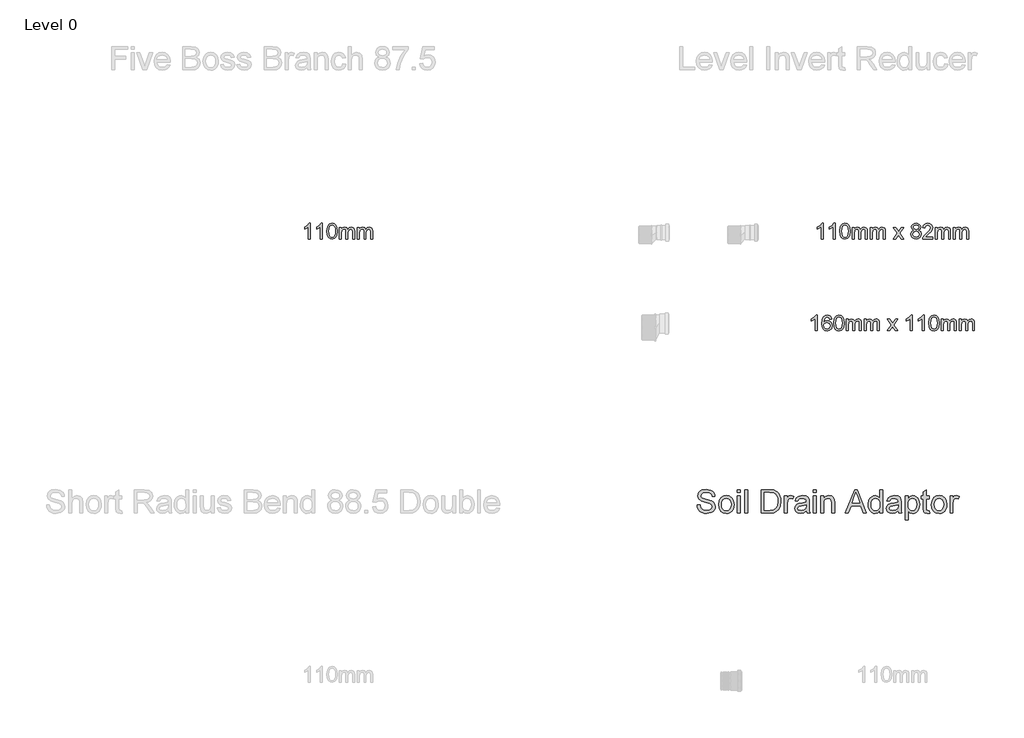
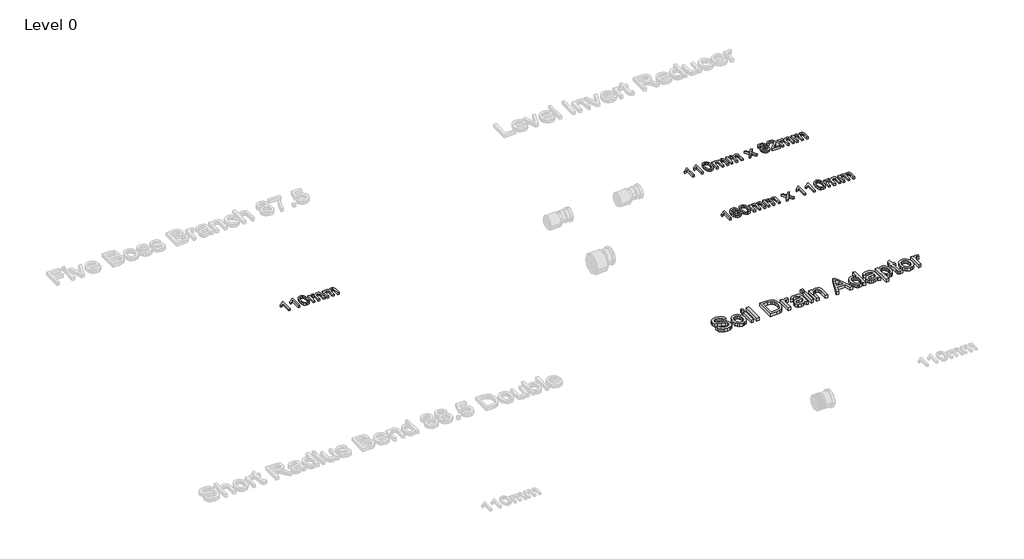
# One storey, part 21 of 23: 4 proxies.
"""IFC4 building model written with IfcOpenShell, lengths in millimetres."""

from ifc_helpers import new_model, si_unit, origin, origin_with_axes, place, context, project, spatial, polyline, outline, extrude, element, save

model = new_model("IFC4")

# Units and contexts
model_context = context("Model", 3, world=origin())
ifc_project = project(units=[si_unit("LENGTHUNIT", "METRE", prefix="MILLI")], contexts=[model_context])

# Site, building, storey
site = spatial("IfcSite", under=ifc_project)
building = spatial("IfcBuilding", under=site)
storey = spatial("IfcBuildingStorey", under=building, Name="Level 0", Elevation=0.0)

# Proxies
placement = place(None, origin())
element("IfcBuildingElementProxy", 1, Name="100mm Arial", ObjectType="100mm Arial", at=placement, inside=storey, context=model_context, shape_type="SweptSolid", body=[
    extrude(outline(polyline([(208.2706812, 2637.7167304), (195.9629889, 2637.7167304), (195.9629889, 2714.4474996), (184.3043351, 2706.1422111), (171.3476043, 2699.9282688), (171.3476043, 2711.5628842), (189.3884697, 2723.0773073), (200.3379889, 2736.1782688), (208.2706812, 2736.1782688), (208.2706812, 2637.7167304)])), origin_with_axes(), (0.0, 0.0, 1.0), 15.0),
    extrude(outline(polyline([(283.6552966, 2637.7167304), (271.3476043, 2637.7167304), (271.3476043, 2714.4474996), (259.6889505, 2706.1422111), (246.7322197, 2699.9282688), (246.7322197, 2711.5628842), (264.7730851, 2723.0773073), (275.7226043, 2736.1782688), (283.6552966, 2736.1782688), (283.6552966, 2637.7167304)])), origin_with_axes(), (0.0, 0.0, 1.0), 15.0),
    extrude(outline(polyline([(312.8860659, 2686.1542304), (316.5038543, 2714.4835573), (327.2490466, 2730.8176919), (345.1937582, 2736.1782688), (359.5687582, 2733.0051919), (369.4966428, 2723.8585573), (375.2658736, 2709.2912496), (377.5014505, 2686.1542304), (373.9197197, 2657.9450958), (363.2105851, 2641.5749035), (345.1937582, 2636.1782688), (332.4052966, 2638.5220188), (322.6937582, 2645.5532688), (315.3379889, 2662.2059131), (312.8860659, 2686.1542304)]), holes=[polyline([(325.1937582, 2686.1782688), (326.6360659, 2666.8182929), (330.9629889, 2655.613365), (337.4052966, 2650.2678121), (345.1937582, 2648.4859611), (352.9822197, 2650.2738217), (359.4245274, 2655.6374035), (363.7514505, 2666.848341), (365.1937582, 2686.1782688), (363.7995274, 2705.1025477), (359.6168351, 2716.394615), (353.1865466, 2722.0015861), (345.0495274, 2723.8705765), (337.3452005, 2722.2239419), (331.1552966, 2717.2840381), (326.6841428, 2705.2888458), (325.1937582, 2686.1782688)])]), origin_with_axes(), (0.0, 0.0, 1.0), 15.0),
    extrude(outline(polyline([(391.3476043, 2637.7167304), (391.3476043, 2710.0244227), (403.6552966, 2710.0244227), (403.6552966, 2698.1253842), (412.1168351, 2707.8729804), (424.1601043, 2711.5628842), (436.4918351, 2707.800865), (443.2706812, 2697.2599996), (452.8740466, 2707.9871631), (465.0014505, 2711.5628842), (474.2532534, 2710.0755044), (481.0952005, 2705.613365), (485.3229649, 2698.0562736), (486.7322197, 2687.2840381), (486.7322197, 2637.7167304), (474.4245274, 2637.7167304), (474.4245274, 2681.9955765), (473.2827005, 2692.2720188), (469.1480851, 2697.332115), (462.1168351, 2699.2551919), (450.0134697, 2694.3273073), (445.1937582, 2678.5340381), (445.1937582, 2637.7167304), (432.8860659, 2637.7167304), (432.8860659, 2683.3657688), (430.0375082, 2695.2888458), (420.6985659, 2699.2551919), (411.5879889, 2696.6109611), (405.5302966, 2688.8705765), (403.6552966, 2674.1830765), (403.6552966, 2637.7167304), (391.3476043, 2637.7167304)])), origin_with_axes(), (0.0, 0.0, 1.0), 15.0),
    extrude(outline(polyline([(505.1937582, 2637.7167304), (505.1937582, 2710.0244227), (517.5014505, 2710.0244227), (517.5014505, 2698.1253842), (525.9629889, 2707.8729804), (538.0062582, 2711.5628842), (550.3379889, 2707.800865), (557.1168351, 2697.2599996), (566.7202005, 2707.9871631), (578.8476043, 2711.5628842), (588.0994072, 2710.0755044), (594.9413543, 2705.613365), (599.1691187, 2698.0562736), (600.5783736, 2687.2840381), (600.5783736, 2637.7167304), (588.2706812, 2637.7167304), (588.2706812, 2681.9955765), (587.1288543, 2692.2720188), (582.9942389, 2697.332115), (575.9629889, 2699.2551919), (563.8596236, 2694.3273073), (559.039912, 2678.5340381), (559.039912, 2637.7167304), (546.7322197, 2637.7167304), (546.7322197, 2683.3657688), (543.883662, 2695.2888458), (534.5447197, 2699.2551919), (525.4341428, 2696.6109611), (519.3764505, 2688.8705765), (517.5014505, 2674.1830765), (517.5014505, 2637.7167304), (505.1937582, 2637.7167304)])), origin_with_axes(), (0.0, 0.0, 1.0), 15.0),
])
element("IfcBuildingElementProxy", 2, Name="100mm Arial", ObjectType="100mm Arial", at=placement, inside=storey, context=model_context, shape_type="SweptSolid", body=[
    extrude(outline(polyline([(3445.9629889, 2637.7167304), (3433.6552966, 2637.7167304), (3433.6552966, 2714.4474996), (3421.9966428, 2706.1422111), (3409.039912, 2699.9282688), (3409.039912, 2711.5628842), (3427.0807774, 2723.0773073), (3438.0302966, 2736.1782688), (3445.9629889, 2736.1782688), (3445.9629889, 2637.7167304)])), origin_with_axes(), (0.0, 0.0, 1.0), 15.0),
    extrude(outline(polyline([(3521.3476043, 2637.7167304), (3509.039912, 2637.7167304), (3509.039912, 2714.4474996), (3497.3812582, 2706.1422111), (3484.4245274, 2699.9282688), (3484.4245274, 2711.5628842), (3502.4653928, 2723.0773073), (3513.414912, 2736.1782688), (3521.3476043, 2736.1782688), (3521.3476043, 2637.7167304)])), origin_with_axes(), (0.0, 0.0, 1.0), 15.0),
    extrude(outline(polyline([(3550.5783736, 2686.1542304), (3554.196162, 2714.4835573), (3564.9413543, 2730.8176919), (3582.8860659, 2736.1782688), (3597.2610659, 2733.0051919), (3607.1889505, 2723.8585573), (3612.9581812, 2709.2912496), (3615.1937582, 2686.1542304), (3611.6120274, 2657.9450958), (3600.9028928, 2641.5749035), (3582.8860659, 2636.1782688), (3570.0976043, 2638.5220188), (3560.3860659, 2645.5532688), (3553.0302966, 2662.2059131), (3550.5783736, 2686.1542304)]), holes=[polyline([(3562.8860659, 2686.1782688), (3564.3283736, 2666.8182929), (3568.6552966, 2655.613365), (3575.0976043, 2650.2678121), (3582.8860659, 2648.4859611), (3590.6745274, 2650.2738217), (3597.1168351, 2655.6374035), (3601.4437582, 2666.848341), (3602.8860659, 2686.1782688), (3601.4918351, 2705.1025477), (3597.3091428, 2716.394615), (3590.8788543, 2722.0015861), (3582.7418351, 2723.8705765), (3575.0375082, 2722.2239419), (3568.8476043, 2717.2840381), (3564.3764505, 2705.2888458), (3562.8860659, 2686.1782688)])]), origin_with_axes(), (0.0, 0.0, 1.0), 15.0),
    extrude(outline(polyline([(3629.039912, 2637.7167304), (3629.039912, 2710.0244227), (3641.3476043, 2710.0244227), (3641.3476043, 2698.1253842), (3649.8091428, 2707.8729804), (3661.852412, 2711.5628842), (3674.1841428, 2707.800865), (3680.9629889, 2697.2599996), (3690.5663543, 2707.9871631), (3702.6937582, 2711.5628842), (3711.9455611, 2710.0755044), (3718.7875082, 2705.613365), (3723.0152726, 2698.0562736), (3724.4245274, 2687.2840381), (3724.4245274, 2637.7167304), (3712.1168351, 2637.7167304), (3712.1168351, 2681.9955765), (3710.9750082, 2692.2720188), (3706.8403928, 2697.332115), (3699.8091428, 2699.2551919), (3687.7057774, 2694.3273073), (3682.8860659, 2678.5340381), (3682.8860659, 2637.7167304), (3670.5783736, 2637.7167304), (3670.5783736, 2683.3657688), (3667.7298159, 2695.2888458), (3658.3908736, 2699.2551919), (3649.2802966, 2696.6109611), (3643.2226043, 2688.8705765), (3641.3476043, 2674.1830765), (3641.3476043, 2637.7167304), (3629.039912, 2637.7167304)])), origin_with_axes(), (0.0, 0.0, 1.0), 15.0),
    extrude(outline(polyline([(3742.8860659, 2637.7167304), (3742.8860659, 2710.0244227), (3755.1937582, 2710.0244227), (3755.1937582, 2698.1253842), (3763.6552966, 2707.8729804), (3775.6985659, 2711.5628842), (3788.0302966, 2707.800865), (3794.8091428, 2697.2599996), (3804.4125082, 2707.9871631), (3816.539912, 2711.5628842), (3825.7917149, 2710.0755044), (3832.633662, 2705.613365), (3836.8614264, 2698.0562736), (3838.2706812, 2687.2840381), (3838.2706812, 2637.7167304), (3825.9629889, 2637.7167304), (3825.9629889, 2681.9955765), (3824.821162, 2692.2720188), (3820.6865466, 2697.332115), (3813.6552966, 2699.2551919), (3801.5519312, 2694.3273073), (3796.7322197, 2678.5340381), (3796.7322197, 2637.7167304), (3784.4245274, 2637.7167304), (3784.4245274, 2683.3657688), (3781.5759697, 2695.2888458), (3772.2370274, 2699.2551919), (3763.1264505, 2696.6109611), (3757.0687582, 2688.8705765), (3755.1937582, 2674.1830765), (3755.1937582, 2637.7167304), (3742.8860659, 2637.7167304)])), origin_with_axes(), (0.0, 0.0, 1.0), 15.0),
    extrude(outline(polyline([(3887.5014505, 2637.7167304), (3913.7995274, 2674.0628842), (3889.039912, 2710.0244227), (3903.8476043, 2710.0244227), (3915.7947197, 2692.7167304), (3921.3716428, 2684.5436535), (3926.2033736, 2691.2263458), (3939.8091428, 2710.0244227), (3954.6168351, 2710.0244227), (3928.6072197, 2674.0628842), (3953.6552966, 2637.7167304), (3938.8476043, 2637.7167304), (3923.7754889, 2659.5676919), (3921.0110659, 2663.5580765), (3902.3091428, 2637.7167304), (3887.5014505, 2637.7167304)])), origin_with_axes(), (0.0, 0.0, 1.0), 15.0),
    extrude(outline(polyline([(4017.7418351, 2691.9474996), (4006.5278928, 2699.5917304), (4002.8860659, 2711.4907688), (4004.8692389, 2721.1121631), (4010.8187582, 2729.0628842), (4020.0675562, 2734.3994227), (4031.9485659, 2736.1782688), (4043.9016909, 2734.3573554), (4053.2706812, 2728.894615), (4059.3283736, 2720.8176919), (4061.3476043, 2711.1542304), (4057.7538543, 2699.5556727), (4046.852412, 2691.9474996), (4059.9413543, 2682.2960573), (4064.4245274, 2666.3705765), (4062.2009697, 2654.6037496), (4055.5302966, 2644.8801919), (4045.2298159, 2638.3537496), (4032.1168351, 2636.1782688), (4019.0038543, 2638.362764), (4008.7033736, 2644.9162496), (4002.0327005, 2654.7329563), (3999.8091428, 2666.707115), (4004.4726043, 2683.0051919), (4017.7418351, 2691.9474996)]), holes=[polyline([(4012.1168351, 2667.1398073), (4014.1721236, 2657.8729804), (4021.4437582, 2650.9378842), (4032.2129889, 2648.4859611), (4046.8764505, 2653.6422111), (4052.1168351, 2666.7551919), (4046.7081812, 2680.1205765), (4040.2778928, 2684.0869227), (4031.8043351, 2685.4090381), (4017.321162, 2680.1926919), (4012.1168351, 2667.1398073)]), polyline([(4015.1937582, 2711.1301919), (4019.5567389, 2701.4667304), (4032.2610659, 2697.7167304), (4044.7129889, 2701.4426919), (4049.039912, 2710.5773073), (4044.5687582, 2720.0364419), (4032.1168351, 2723.8705765), (4019.6288543, 2720.1205765), (4015.1937582, 2711.1301919)])]), origin_with_axes(), (0.0, 0.0, 1.0), 15.0),
    extrude(outline(polyline([(4138.2706812, 2650.0244227), (4138.2706812, 2637.7167304), (4073.6552966, 2637.7167304), (4074.977412, 2646.2023073), (4082.4533736, 2659.2672111), (4097.8620274, 2673.5340381), (4119.1120274, 2694.0388458), (4124.4245274, 2707.9811535), (4119.4125082, 2719.2672111), (4106.3235659, 2723.8705765), (4092.6817389, 2719.3753842), (4087.5014505, 2706.9474996), (4075.1937582, 2708.4859611), (4078.1775322, 2720.3910092), (4084.6288543, 2729.0869227), (4094.2111861, 2734.4054323), (4106.5879889, 2736.1782688), (4119.0549361, 2734.207115), (4128.6192389, 2728.2936535), (4134.7039745, 2719.4595188), (4136.7322197, 2708.7263458), (4134.5447197, 2697.0556727), (4127.2730851, 2684.988365), (4109.6408736, 2668.1253842), (4095.4822197, 2656.2864419), (4089.9293351, 2650.0244227), (4138.2706812, 2650.0244227)])), origin_with_axes(), (0.0, 0.0, 1.0), 15.0),
    extrude(outline(polyline([(4153.6552966, 2637.7167304), (4153.6552966, 2710.0244227), (4165.9629889, 2710.0244227), (4165.9629889, 2698.1253842), (4174.4245274, 2707.8729804), (4186.4677966, 2711.5628842), (4198.7995274, 2707.800865), (4205.5783736, 2697.2599996), (4215.1817389, 2707.9871631), (4227.3091428, 2711.5628842), (4236.5609457, 2710.0755044), (4243.4028928, 2705.613365), (4247.6306572, 2698.0562736), (4249.039912, 2687.2840381), (4249.039912, 2637.7167304), (4236.7322197, 2637.7167304), (4236.7322197, 2681.9955765), (4235.5903928, 2692.2720188), (4231.4557774, 2697.332115), (4224.4245274, 2699.2551919), (4212.321162, 2694.3273073), (4207.5014505, 2678.5340381), (4207.5014505, 2637.7167304), (4195.1937582, 2637.7167304), (4195.1937582, 2683.3657688), (4192.3452005, 2695.2888458), (4183.0062582, 2699.2551919), (4173.8956812, 2696.6109611), (4167.8379889, 2688.8705765), (4165.9629889, 2674.1830765), (4165.9629889, 2637.7167304), (4153.6552966, 2637.7167304)])), origin_with_axes(), (0.0, 0.0, 1.0), 15.0),
    extrude(outline(polyline([(4267.5014505, 2637.7167304), (4267.5014505, 2710.0244227), (4279.8091428, 2710.0244227), (4279.8091428, 2698.1253842), (4288.2706812, 2707.8729804), (4300.3139505, 2711.5628842), (4312.6456812, 2707.800865), (4319.4245274, 2697.2599996), (4329.0278928, 2707.9871631), (4341.1552966, 2711.5628842), (4350.4070995, 2710.0755044), (4357.2490466, 2705.613365), (4361.4768111, 2698.0562736), (4362.8860659, 2687.2840381), (4362.8860659, 2637.7167304), (4350.5783736, 2637.7167304), (4350.5783736, 2681.9955765), (4349.4365466, 2692.2720188), (4345.3019312, 2697.332115), (4338.2706812, 2699.2551919), (4326.1673159, 2694.3273073), (4321.3476043, 2678.5340381), (4321.3476043, 2637.7167304), (4309.039912, 2637.7167304), (4309.039912, 2683.3657688), (4306.1913543, 2695.2888458), (4296.852412, 2699.2551919), (4287.7418351, 2696.6109611), (4281.6841428, 2688.8705765), (4279.8091428, 2674.1830765), (4279.8091428, 2637.7167304), (4267.5014505, 2637.7167304)])), origin_with_axes(), (0.0, 0.0, 1.0), 15.0),
])
element("IfcBuildingElementProxy", 3, Name="100mm Arial", ObjectType="100mm Arial", at=placement, inside=storey, context=model_context, shape_type="SweptSolid", body=[
    extrude(outline(polyline([(3408.2706812, 2057.7167304), (3395.9629889, 2057.7167304), (3395.9629889, 2134.4474996), (3384.3043351, 2126.1422111), (3371.3476043, 2119.9282688), (3371.3476043, 2131.5628842), (3389.3884697, 2143.0773073), (3400.3379889, 2156.1782688), (3408.2706812, 2156.1782688), (3408.2706812, 2057.7167304)])), origin_with_axes(), (0.0, 0.0, 1.0), 15.0),
    extrude(outline(polyline([(3500.5783736, 2130.0244227), (3488.2706812, 2128.4859611), (3483.6072197, 2138.7503842), (3471.2754889, 2143.8705765), (3460.1697197, 2140.8898073), (3451.7682774, 2129.6999035), (3448.2706812, 2107.7648073), (3459.1240466, 2117.5845188), (3472.5735659, 2120.7936535), (3483.9437582, 2118.6001438), (3493.4870274, 2112.019615), (3499.9593832, 2101.9655285), (3502.1168351, 2089.3513458), (3498.0543351, 2072.3681727), (3486.8764505, 2060.3489419), (3470.7466428, 2056.1782688), (3456.7833014, 2058.9426919), (3445.6625082, 2067.2359611), (3438.3878687, 2081.8753842), (3435.9629889, 2103.6782688), (3438.6552966, 2128.19149), (3446.7322197, 2144.9523073), (3457.7598639, 2153.3717785), (3472.0447197, 2156.1782688), (3482.8439986, 2154.44149), (3491.4918351, 2149.2311535), (3497.5495274, 2140.9559131), (3500.5783736, 2130.0244227)]), holes=[polyline([(3448.2706812, 2089.5436535), (3451.1192389, 2078.8825958), (3458.6913543, 2071.1422111), (3469.7851043, 2068.4859611), (3477.9070995, 2069.8621631), (3484.2923159, 2073.9907688), (3488.4299361, 2080.4811535), (3489.8091428, 2088.9426919), (3488.4479649, 2097.0646871), (3484.3644312, 2103.2575958), (3469.2802966, 2108.4859611), (3454.3884697, 2103.2575958), (3449.8001284, 2097.2149275), (3448.2706812, 2089.5436535)])]), origin_with_axes(), (0.0, 0.0, 1.0), 15.0),
    extrude(outline(polyline([(3512.8860659, 2106.1542304), (3516.5038543, 2134.4835573), (3527.2490466, 2150.8176919), (3545.1937582, 2156.1782688), (3559.5687582, 2153.0051919), (3569.4966428, 2143.8585573), (3575.2658736, 2129.2912496), (3577.5014505, 2106.1542304), (3573.9197197, 2077.9450958), (3563.2105851, 2061.5749035), (3545.1937582, 2056.1782688), (3532.4052966, 2058.5220188), (3522.6937582, 2065.5532688), (3515.3379889, 2082.2059131), (3512.8860659, 2106.1542304)]), holes=[polyline([(3525.1937582, 2106.1782688), (3526.6360659, 2086.8182929), (3530.9629889, 2075.613365), (3537.4052966, 2070.2678121), (3545.1937582, 2068.4859611), (3552.9822197, 2070.2738217), (3559.4245274, 2075.6374035), (3563.7514505, 2086.848341), (3565.1937582, 2106.1782688), (3563.7995274, 2125.1025477), (3559.6168351, 2136.394615), (3553.1865466, 2142.0015861), (3545.0495274, 2143.8705765), (3537.3452005, 2142.2239419), (3531.1552966, 2137.2840381), (3526.6841428, 2125.2888458), (3525.1937582, 2106.1782688)])]), origin_with_axes(), (0.0, 0.0, 1.0), 15.0),
    extrude(outline(polyline([(3591.3476043, 2057.7167304), (3591.3476043, 2130.0244227), (3603.6552966, 2130.0244227), (3603.6552966, 2118.1253842), (3612.1168351, 2127.8729804), (3624.1601043, 2131.5628842), (3636.4918351, 2127.800865), (3643.2706812, 2117.2599996), (3652.8740466, 2127.9871631), (3665.0014505, 2131.5628842), (3674.2532534, 2130.0755044), (3681.0952005, 2125.613365), (3685.3229649, 2118.0562736), (3686.7322197, 2107.2840381), (3686.7322197, 2057.7167304), (3674.4245274, 2057.7167304), (3674.4245274, 2101.9955765), (3673.2827005, 2112.2720188), (3669.1480851, 2117.332115), (3662.1168351, 2119.2551919), (3650.0134697, 2114.3273073), (3645.1937582, 2098.5340381), (3645.1937582, 2057.7167304), (3632.8860659, 2057.7167304), (3632.8860659, 2103.3657688), (3630.0375082, 2115.2888458), (3620.6985659, 2119.2551919), (3611.5879889, 2116.6109611), (3605.5302966, 2108.8705765), (3603.6552966, 2094.1830765), (3603.6552966, 2057.7167304), (3591.3476043, 2057.7167304)])), origin_with_axes(), (0.0, 0.0, 1.0), 15.0),
    extrude(outline(polyline([(3705.1937582, 2057.7167304), (3705.1937582, 2130.0244227), (3717.5014505, 2130.0244227), (3717.5014505, 2118.1253842), (3725.9629889, 2127.8729804), (3738.0062582, 2131.5628842), (3750.3379889, 2127.800865), (3757.1168351, 2117.2599996), (3766.7202005, 2127.9871631), (3778.8476043, 2131.5628842), (3788.0994072, 2130.0755044), (3794.9413543, 2125.613365), (3799.1691187, 2118.0562736), (3800.5783736, 2107.2840381), (3800.5783736, 2057.7167304), (3788.2706812, 2057.7167304), (3788.2706812, 2101.9955765), (3787.1288543, 2112.2720188), (3782.9942389, 2117.332115), (3775.9629889, 2119.2551919), (3763.8596236, 2114.3273073), (3759.039912, 2098.5340381), (3759.039912, 2057.7167304), (3746.7322197, 2057.7167304), (3746.7322197, 2103.3657688), (3743.883662, 2115.2888458), (3734.5447197, 2119.2551919), (3725.4341428, 2116.6109611), (3719.3764505, 2108.8705765), (3717.5014505, 2094.1830765), (3717.5014505, 2057.7167304), (3705.1937582, 2057.7167304)])), origin_with_axes(), (0.0, 0.0, 1.0), 15.0),
    extrude(outline(polyline([(3849.8091428, 2057.7167304), (3876.1072197, 2094.0628842), (3851.3476043, 2130.0244227), (3866.1552966, 2130.0244227), (3878.102412, 2112.7167304), (3883.6793351, 2104.5436535), (3888.5110659, 2111.2263458), (3902.1168351, 2130.0244227), (3916.9245274, 2130.0244227), (3890.914912, 2094.0628842), (3915.9629889, 2057.7167304), (3901.1552966, 2057.7167304), (3886.0831812, 2079.5676919), (3883.3187582, 2083.5580765), (3864.6168351, 2057.7167304), (3849.8091428, 2057.7167304)])), origin_with_axes(), (0.0, 0.0, 1.0), 15.0),
    extrude(outline(polyline([(4008.2706812, 2057.7167304), (3995.9629889, 2057.7167304), (3995.9629889, 2134.4474996), (3984.3043351, 2126.1422111), (3971.3476043, 2119.9282688), (3971.3476043, 2131.5628842), (3989.3884697, 2143.0773073), (4000.3379889, 2156.1782688), (4008.2706812, 2156.1782688), (4008.2706812, 2057.7167304)])), origin_with_axes(), (0.0, 0.0, 1.0), 15.0),
    extrude(outline(polyline([(4083.6552966, 2057.7167304), (4071.3476043, 2057.7167304), (4071.3476043, 2134.4474996), (4059.6889505, 2126.1422111), (4046.7322197, 2119.9282688), (4046.7322197, 2131.5628842), (4064.7730851, 2143.0773073), (4075.7226043, 2156.1782688), (4083.6552966, 2156.1782688), (4083.6552966, 2057.7167304)])), origin_with_axes(), (0.0, 0.0, 1.0), 15.0),
    extrude(outline(polyline([(4112.8860659, 2106.1542304), (4116.5038543, 2134.4835573), (4127.2490466, 2150.8176919), (4145.1937582, 2156.1782688), (4159.5687582, 2153.0051919), (4169.4966428, 2143.8585573), (4175.2658736, 2129.2912496), (4177.5014505, 2106.1542304), (4173.9197197, 2077.9450958), (4163.2105851, 2061.5749035), (4145.1937582, 2056.1782688), (4132.4052966, 2058.5220188), (4122.6937582, 2065.5532688), (4115.3379889, 2082.2059131), (4112.8860659, 2106.1542304)]), holes=[polyline([(4125.1937582, 2106.1782688), (4126.6360659, 2086.8182929), (4130.9629889, 2075.613365), (4137.4052966, 2070.2678121), (4145.1937582, 2068.4859611), (4152.9822197, 2070.2738217), (4159.4245274, 2075.6374035), (4163.7514505, 2086.848341), (4165.1937582, 2106.1782688), (4163.7995274, 2125.1025477), (4159.6168351, 2136.394615), (4153.1865466, 2142.0015861), (4145.0495274, 2143.8705765), (4137.3452005, 2142.2239419), (4131.1552966, 2137.2840381), (4126.6841428, 2125.2888458), (4125.1937582, 2106.1782688)])]), origin_with_axes(), (0.0, 0.0, 1.0), 15.0),
    extrude(outline(polyline([(4191.3476043, 2057.7167304), (4191.3476043, 2130.0244227), (4203.6552966, 2130.0244227), (4203.6552966, 2118.1253842), (4212.1168351, 2127.8729804), (4224.1601043, 2131.5628842), (4236.4918351, 2127.800865), (4243.2706812, 2117.2599996), (4252.8740466, 2127.9871631), (4265.0014505, 2131.5628842), (4274.2532534, 2130.0755044), (4281.0952005, 2125.613365), (4285.3229649, 2118.0562736), (4286.7322197, 2107.2840381), (4286.7322197, 2057.7167304), (4274.4245274, 2057.7167304), (4274.4245274, 2101.9955765), (4273.2827005, 2112.2720188), (4269.1480851, 2117.332115), (4262.1168351, 2119.2551919), (4250.0134697, 2114.3273073), (4245.1937582, 2098.5340381), (4245.1937582, 2057.7167304), (4232.8860659, 2057.7167304), (4232.8860659, 2103.3657688), (4230.0375082, 2115.2888458), (4220.6985659, 2119.2551919), (4211.5879889, 2116.6109611), (4205.5302966, 2108.8705765), (4203.6552966, 2094.1830765), (4203.6552966, 2057.7167304), (4191.3476043, 2057.7167304)])), origin_with_axes(), (0.0, 0.0, 1.0), 15.0),
    extrude(outline(polyline([(4305.1937582, 2057.7167304), (4305.1937582, 2130.0244227), (4317.5014505, 2130.0244227), (4317.5014505, 2118.1253842), (4325.9629889, 2127.8729804), (4338.0062582, 2131.5628842), (4350.3379889, 2127.800865), (4357.1168351, 2117.2599996), (4366.7202005, 2127.9871631), (4378.8476043, 2131.5628842), (4388.0994072, 2130.0755044), (4394.9413543, 2125.613365), (4399.1691187, 2118.0562736), (4400.5783736, 2107.2840381), (4400.5783736, 2057.7167304), (4388.2706812, 2057.7167304), (4388.2706812, 2101.9955765), (4387.1288543, 2112.2720188), (4382.9942389, 2117.332115), (4375.9629889, 2119.2551919), (4363.8596236, 2114.3273073), (4359.039912, 2098.5340381), (4359.039912, 2057.7167304), (4346.7322197, 2057.7167304), (4346.7322197, 2103.3657688), (4343.883662, 2115.2888458), (4334.5447197, 2119.2551919), (4325.4341428, 2116.6109611), (4319.3764505, 2108.8705765), (4317.5014505, 2094.1830765), (4317.5014505, 2057.7167304), (4305.1937582, 2057.7167304)])), origin_with_axes(), (0.0, 0.0, 1.0), 15.0),
])
element("IfcBuildingElementProxy", 4, Name="150mm Arial", ObjectType="150mm Arial", at=placement, inside=storey, context=model_context, shape_type="SweptSolid", body=[
    extrude(outline(polyline([(2649.3950873, 955.9837527), (2667.8566257, 955.9837527), (2673.806145, 937.5041854), (2688.337395, 925.8214931), (2710.476818, 921.3683681), (2729.7676834, 924.7397623), (2742.2256161, 934.0065892), (2746.3181642, 946.3924065), (2743.2532603, 957.9128392), (2730.7051834, 966.2962527), (2703.8241738, 973.3455315), (2674.8878757, 982.4500988), (2659.1847507, 996.1880796), (2654.0104719, 1014.541445), (2655.610532, 1025.3542455), (2660.4107123, 1035.4368777), (2668.2848108, 1043.9825508), (2679.1066257, 1050.1844738), (2706.4744142, 1055.2145219), (2735.681145, 1049.9500988), (2746.8770584, 1043.4506998), (2755.1522988, 1034.4813488), (2760.3896786, 1023.6009402), (2762.4720103, 1011.3683681), (2744.0104719, 1011.3683681), (2740.6210488, 1022.3839931), (2733.5537411, 1030.3347142), (2722.5110728, 1035.1484161), (2707.195568, 1036.7529835), (2691.5194863, 1035.166445), (2680.7652796, 1030.4068296), (2674.5453277, 1023.4026229), (2672.4720103, 1015.0823104), (2673.9413613, 1007.9879594), (2678.3494142, 1002.2818296), (2708.493645, 991.9693296), (2741.1619142, 982.7025027), (2751.6862531, 976.0047863), (2759.0285007, 967.7385604), (2764.7797027, 946.8611565), (2763.125556, 935.4804474), (2758.1631161, 924.77582), (2750.0952075, 915.5630796), (2739.1246546, 908.6580315), (2711.1979719, 902.9068296), (2693.110532, 904.4573104), (2678.2232123, 909.1087527), (2666.3647387, 916.8791854), (2657.3638373, 927.7866373), (2651.5855921, 941.0738969), (2649.3950873, 955.9837527)])), origin_with_axes(), (0.0, 0.0, 1.0), 25.0),
    extrude(outline(polyline([(2785.5489334, 959.4452911), (2789.5423228, 985.5961325), (2801.5224911, 1003.9765411), (2816.3241738, 1012.9819498), (2834.0465296, 1015.9837527), (2853.4410608, 1012.3284041), (2868.9323469, 1001.3623585), (2879.0870945, 983.9510003), (2882.4720103, 960.9597142), (2880.9756161, 942.3088729), (2876.4864334, 928.1111565), (2869.1351714, 917.4786445), (2859.0525392, 909.5234161), (2847.0768781, 904.5609762), (2834.0465296, 902.9068296), (2814.4176233, 906.5486565), (2798.9443661, 917.4741373), (2788.8977916, 935.2505796), (2785.5489334, 959.4452911)]), holes=[polyline([(2804.0104719, 959.4813488), (2806.1468902, 942.7731157), (2812.556145, 930.86957), (2822.2015777, 923.7436686), (2834.0465296, 921.3683681), (2845.837395, 923.7571902), (2855.4647988, 930.9236565), (2861.8740536, 942.9849546), (2864.0104719, 960.0582719), (2861.860532, 976.2797262), (2855.4107123, 988.0210123), (2845.7697868, 995.1469137), (2834.0465296, 997.5222142), (2822.2015777, 995.1559282), (2812.556145, 988.05707), (2806.1468902, 976.1805676), (2804.0104719, 959.4813488)])]), origin_with_axes(), (0.0, 0.0, 1.0), 25.0),
    extrude(outline(polyline([(2903.2412411, 1034.4452911), (2903.2412411, 1052.9068296), (2921.7027796, 1052.9068296), (2921.7027796, 1034.4452911), (2903.2412411, 1034.4452911)])), origin_with_axes(), (0.0, 0.0, 1.0), 25.0),
    extrude(outline(polyline([(2903.2412411, 905.2145219), (2903.2412411, 1013.6760604), (2921.7027796, 1013.6760604), (2921.7027796, 905.2145219), (2903.2412411, 905.2145219)])), origin_with_axes(), (0.0, 0.0, 1.0), 25.0),
    extrude(outline(polyline([(2949.3950873, 905.2145219), (2949.3950873, 1052.9068296), (2967.8566257, 1052.9068296), (2967.8566257, 905.2145219), (2949.3950873, 905.2145219)])), origin_with_axes(), (0.0, 0.0, 1.0), 25.0),
    extrude(outline(polyline([(3055.5489334, 905.2145219), (3055.5489334, 1052.9068296), (3106.4984527, 1052.9068296), (3132.8566257, 1050.7794258), (3154.5633565, 1040.2145219), (3164.7766978, 1028.9645219), (3172.0513373, 1014.9741373), (3176.4053036, 998.5138008), (3177.8566257, 979.853945), (3173.9263373, 950.0522623), (3163.8301834, 928.5438488), (3150.3446065, 915.1484161), (3132.6943661, 907.7385604), (3108.9503757, 905.2145219), (3055.5489334, 905.2145219)]), holes=[polyline([(3074.0104719, 923.6760604), (3106.6787411, 923.6760604), (3130.4407603, 926.3443296), (3144.1426834, 933.8803873), (3155.3746546, 952.2157238), (3159.3950873, 980.1424065), (3157.4254358, 1000.2625988), (3151.5164815, 1015.1183681), (3142.7860128, 1025.322695), (3132.351818, 1031.4885604), (3106.1739334, 1034.4452911), (3074.0104719, 1034.4452911), (3074.0104719, 923.6760604)])]), origin_with_axes(), (0.0, 0.0, 1.0), 25.0),
    extrude(outline(polyline([(3200.9335488, 905.2145219), (3200.9335488, 1013.6760604), (3217.087395, 1013.6760604), (3217.087395, 997.6303873), (3228.5537411, 1012.4140411), (3240.0922027, 1015.9837527), (3258.6258565, 1010.2866373), (3252.4599911, 993.7361565), (3239.4792219, 997.5222142), (3229.04052, 993.8803873), (3222.3878757, 983.7842335), (3219.3950873, 962.2217335), (3219.3950873, 905.2145219), (3200.9335488, 905.2145219)])), origin_with_axes(), (0.0, 0.0, 1.0), 25.0),
    extrude(outline(polyline([(3339.3950873, 919.0606758), (3321.492443, 906.5486565), (3301.7147988, 902.9068296), (3286.2866137, 905.0973344), (3274.9059046, 911.6688488), (3267.8881762, 921.6478152), (3265.5489334, 934.0606758), (3269.0825873, 948.6640411), (3278.367443, 959.2650027), (3291.2941257, 965.322695), (3307.2676834, 968.0991373), (3339.2869142, 974.4452911), (3339.3950873, 978.5558681), (3338.1240536, 986.7950508), (3334.3109527, 992.1856758), (3325.7833084, 996.1880796), (3313.9022988, 997.5222142), (3295.2244142, 993.9705315), (3286.3181642, 981.3683681), (3267.8566257, 983.6760604), (3275.8434046, 1001.7049065), (3291.9251353, 1012.2698104), (3316.2821065, 1015.9837527), (3338.6559046, 1012.7025027), (3351.2941257, 1004.46332), (3356.9551834, 991.9332719), (3357.8566257, 975.7794258), (3357.8566257, 952.8106758), (3358.7941257, 920.7373585), (3362.4720103, 905.2145219), (3344.0104719, 905.2145219), (3339.3950873, 919.0606758)]), holes=[polyline([(3339.3950873, 955.9837527), (3309.6114334, 950.322695), (3293.72802, 947.3299065), (3286.5345103, 942.4621181), (3284.0104719, 935.3587527), (3289.50927, 925.3707719), (3305.6450873, 921.3683681), (3324.3229719, 925.7854354), (3336.3662411, 936.4765411), (3339.2869142, 950.7553873), (3339.3950873, 955.9837527)])]), origin_with_axes(), (0.0, 0.0, 1.0), 25.0),
    extrude(outline(polyline([(3383.2412411, 1034.4452911), (3383.2412411, 1052.9068296), (3401.7027796, 1052.9068296), (3401.7027796, 1034.4452911), (3383.2412411, 1034.4452911)])), origin_with_axes(), (0.0, 0.0, 1.0), 25.0),
    extrude(outline(polyline([(3383.2412411, 905.2145219), (3383.2412411, 1013.6760604), (3401.7027796, 1013.6760604), (3401.7027796, 905.2145219), (3383.2412411, 905.2145219)])), origin_with_axes(), (0.0, 0.0, 1.0), 25.0),
    extrude(outline(polyline([(3429.3950873, 905.2145219), (3429.3950873, 1013.6760604), (3447.8566257, 1013.6760604), (3447.8566257, 998.5318296), (3461.9732123, 1011.6207719), (3481.2460488, 1015.9837527), (3498.679943, 1012.4681277), (3510.5789815, 1003.2373585), (3516.1138373, 989.6616373), (3517.087395, 971.8130796), (3517.087395, 905.2145219), (3498.6258565, 905.2145219), (3498.6258565, 969.3250988), (3496.4984527, 985.6592335), (3488.9804238, 994.2950508), (3476.306145, 997.5222142), (3465.4933445, 995.7103152), (3456.2760969, 990.2746181), (3449.9614935, 979.7728152), (3447.8566257, 962.7625988), (3447.8566257, 905.2145219), (3429.3950873, 905.2145219)])), origin_with_axes(), (0.0, 0.0, 1.0), 25.0),
    extrude(outline(polyline([(3585.2724911, 905.2145219), (3644.226818, 1052.9068296), (3659.9479719, 1052.9068296), (3718.9022988, 905.2145219), (3699.3950873, 905.2145219), (3682.4840296, 951.3683681), (3621.6547027, 951.3683681), (3604.7797027, 905.2145219), (3585.2724911, 905.2145219)]), holes=[polyline([(3628.4335488, 969.8299065), (3675.7412411, 969.8299065), (3662.4359527, 1006.1400027), (3652.087395, 1034.4452911), (3642.8926834, 1009.3130796), (3628.4335488, 969.8299065)])]), origin_with_axes(), (0.0, 0.0, 1.0), 25.0),
    extrude(outline(polyline([(3803.2412411, 905.2145219), (3803.2412411, 922.6303873), (3791.0266978, 907.837719), (3774.1426834, 902.9068296), (3762.2075873, 904.6916854), (3751.2821065, 910.0462527), (3742.0333084, 918.596433), (3735.1282603, 929.9681277), (3730.8283805, 943.7016012), (3729.3950873, 959.3371181), (3734.6775392, 988.7241373), (3741.2760969, 1000.3797863), (3750.5068661, 1008.9525027), (3761.6712291, 1014.2259402), (3774.070568, 1015.9837527), (3791.0897988, 1010.9537046), (3803.2412411, 997.8827911), (3803.2412411, 1052.9068296), (3821.7027796, 1052.9068296), (3821.7027796, 905.2145219), (3803.2412411, 905.2145219)]), holes=[polyline([(3747.8566257, 959.4092335), (3749.9389575, 942.7100147), (3756.1859527, 930.8335123), (3765.2634767, 923.7346541), (3775.837395, 921.3683681), (3786.406806, 923.6264811), (3795.2544623, 930.40082), (3801.2445464, 941.8175868), (3803.2412411, 958.0029835), (3801.2084887, 975.698296), (3795.1102315, 987.9669258), (3786.0372147, 995.1333921), (3775.0801834, 997.5222142), (3764.3980921, 995.2280436), (3755.6450873, 988.3455315), (3749.8037411, 976.5231157), (3747.8566257, 959.4092335)])]), origin_with_axes(), (0.0, 0.0, 1.0), 25.0),
    extrude(outline(polyline([(3918.6258565, 919.0606758), (3900.7232123, 906.5486565), (3880.945568, 902.9068296), (3865.5173829, 905.0973344), (3854.1366738, 911.6688488), (3847.1189454, 921.6478152), (3844.7797027, 934.0606758), (3848.3133565, 948.6640411), (3857.5982123, 959.2650027), (3870.524895, 965.322695), (3886.4984527, 968.0991373), (3918.5176834, 974.4452911), (3918.6258565, 978.5558681), (3917.3548228, 986.7950508), (3913.5417219, 992.1856758), (3905.0140777, 996.1880796), (3893.133068, 997.5222142), (3874.4551834, 993.9705315), (3865.5489334, 981.3683681), (3847.087395, 983.6760604), (3855.0741738, 1001.7049065), (3871.1559046, 1012.2698104), (3895.5128757, 1015.9837527), (3917.8866738, 1012.7025027), (3930.524895, 1004.46332), (3936.1859527, 991.9332719), (3937.087395, 975.7794258), (3937.087395, 952.8106758), (3938.024895, 920.7373585), (3941.7027796, 905.2145219), (3923.2412411, 905.2145219), (3918.6258565, 919.0606758)]), holes=[polyline([(3918.6258565, 955.9837527), (3888.8422027, 950.322695), (3872.9587892, 947.3299065), (3865.7652796, 942.4621181), (3863.2412411, 935.3587527), (3868.7400392, 925.3707719), (3884.8758565, 921.3683681), (3903.5537411, 925.7854354), (3915.5970103, 936.4765411), (3918.5176834, 950.7553873), (3918.6258565, 955.9837527)])]), origin_with_axes(), (0.0, 0.0, 1.0), 25.0),
    extrude(outline(polyline([(3962.4720103, 863.6760604), (3962.4720103, 1013.6760604), (3980.9335488, 1013.6760604), (3980.9335488, 995.5750988), (3993.6979719, 1010.8815892), (4010.9335488, 1015.9837527), (4023.4185248, 1014.1988969), (4034.3349911, 1008.8443296), (4043.2232123, 1000.24457), (4049.6234527, 988.7241373), (4054.7797027, 960.2746181), (4053.3238733, 944.4858561), (4048.9563853, 930.3647623), (4041.8169623, 918.6279835), (4032.0453277, 909.9921661), (4020.6646185, 904.6781637), (4008.6979719, 902.9068296), (3992.63427, 907.6484161), (3980.9335488, 919.6375988), (3980.9335488, 863.6760604), (3962.4720103, 863.6760604)]), holes=[polyline([(3980.9335488, 958.5799065), (3982.9302435, 942.0294258), (3988.9203277, 930.4549065), (3997.7589695, 923.6400027), (4008.3013373, 921.3683681), (4019.0149791, 923.7211325), (4028.0789815, 930.7794258), (4034.2583685, 942.7776229), (4036.3181642, 959.9500988), (4034.3079478, 976.4104354), (4028.2772988, 988.1472142), (4019.4521786, 995.1784642), (4009.0585488, 997.5222142), (3998.6243541, 995.0297262), (3989.461193, 987.5522623), (3983.0654599, 975.3241974), (3980.9335488, 958.5799065)])]), origin_with_axes(), (0.0, 0.0, 1.0), 25.0),
    extrude(outline(polyline([(4114.7797027, 920.6111565), (4117.087395, 904.6736565), (4103.2772988, 902.9068296), (4087.8085488, 905.9717335), (4080.0922027, 914.0125988), (4077.8566257, 934.9621181), (4077.8566257, 995.2145219), (4064.0104719, 995.2145219), (4064.0104719, 1013.6760604), (4077.8566257, 1013.6760604), (4077.8566257, 1040.0342335), (4096.3181642, 1050.8875988), (4096.3181642, 1013.6760604), (4114.7797027, 1013.6760604), (4114.7797027, 995.2145219), (4096.3181642, 995.2145219), (4096.3181642, 935.5029835), (4097.2917219, 925.9837527), (4100.44677, 922.6123585), (4106.7388373, 921.3683681), (4114.7797027, 920.6111565)])), origin_with_axes(), (0.0, 0.0, 1.0), 25.0),
    extrude(outline(polyline([(4128.6258565, 959.4452911), (4132.6192459, 985.5961325), (4144.5994142, 1003.9765411), (4159.4010969, 1012.9819498), (4177.1234527, 1015.9837527), (4196.5179839, 1012.3284041), (4212.00927, 1001.3623585), (4222.1640176, 983.9510003), (4225.5489334, 960.9597142), (4224.0525392, 942.3088729), (4219.5633565, 928.1111565), (4212.2120945, 917.4786445), (4202.1294623, 909.5234161), (4190.1538012, 904.5609762), (4177.1234527, 902.9068296), (4157.4945464, 906.5486565), (4142.0212892, 917.4741373), (4131.9747147, 935.2505796), (4128.6258565, 959.4452911)]), holes=[polyline([(4147.087395, 959.4813488), (4149.2238132, 942.7731157), (4155.633068, 930.86957), (4165.2785007, 923.7436686), (4177.1234527, 921.3683681), (4188.914318, 923.7571902), (4198.5417219, 930.9236565), (4204.9509767, 942.9849546), (4207.087395, 960.0582719), (4204.9374551, 976.2797262), (4198.4876353, 988.0210123), (4188.8467099, 995.1469137), (4177.1234527, 997.5222142), (4165.2785007, 995.1559282), (4155.633068, 988.05707), (4149.2238132, 976.1805676), (4147.087395, 959.4813488)])]), origin_with_axes(), (0.0, 0.0, 1.0), 25.0),
    extrude(outline(polyline([(4246.3181642, 905.2145219), (4246.3181642, 1013.6760604), (4262.4720103, 1013.6760604), (4262.4720103, 997.6303873), (4273.9383565, 1012.4140411), (4285.476818, 1015.9837527), (4304.0104719, 1010.2866373), (4297.8446065, 993.7361565), (4284.8638373, 997.5222142), (4274.4251353, 993.8803873), (4267.7724911, 983.7842335), (4264.7797027, 962.2217335), (4264.7797027, 905.2145219), (4246.3181642, 905.2145219)])), origin_with_axes(), (0.0, 0.0, 1.0), 25.0),
])

save(model, "model.ifc")
